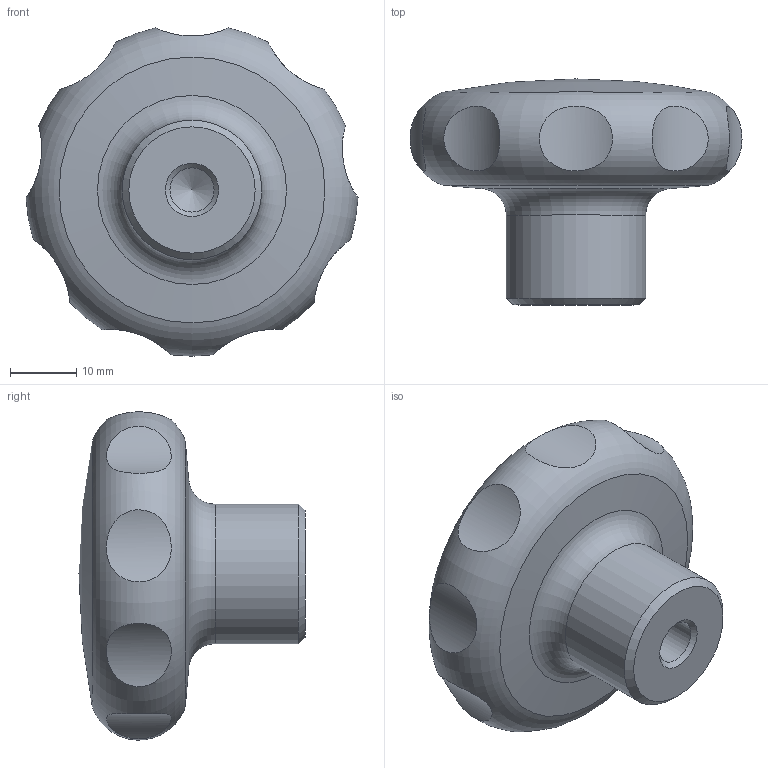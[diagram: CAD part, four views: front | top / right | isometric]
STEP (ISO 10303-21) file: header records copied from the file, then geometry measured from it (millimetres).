
FILE_DESCRIPTION( ( 'STEP AP203' ), '1' );
FILE_NAME( 'C:/Temp/Ganter_Step_05_03_2020/data/2_2/gn_5335/gn_5335_ni_e/Stainless steel-Star knob GN 5335-50-M8-E.stp', '2020-03-05T12:10:25', ( 'License CC BY-ND 4.0' ), ( 'CADENAS' ), ' ', 'PARTsolutions', ' ' );
FILE_SCHEMA( ( 'CONFIG_CONTROL_DESIGN' ) );
Length unit declared in the file: millimetre
Products named in the file (1): _Stainless steel-Star knob GN 5335-50-M8-E
Bounding box: 49.94 x 34 x 49.38 mm (x, y, z)
Volume: 31345.4 mm3; surface area: 6520.7 mm2
Topology: 1 solids, 1 shells, 19 faces, 30 edges, 21 vertices
Faces by surface type: cylinder 11, cone 3, torus 2, sphere 2, plane 1
Full cylindrical faces by diameter (mm): 6.647 x1, 21 x1
Entity records: 1138 total; most frequent: CARTESIAN_POINT 794, DIRECTION 58, EDGE_LOOP 36, ORIENTED_EDGE 36, AXIS2_PLACEMENT_3D 29, FACE_OUTER_BOUND 24, VERTEX_POINT 21, ADVANCED_FACE 19
